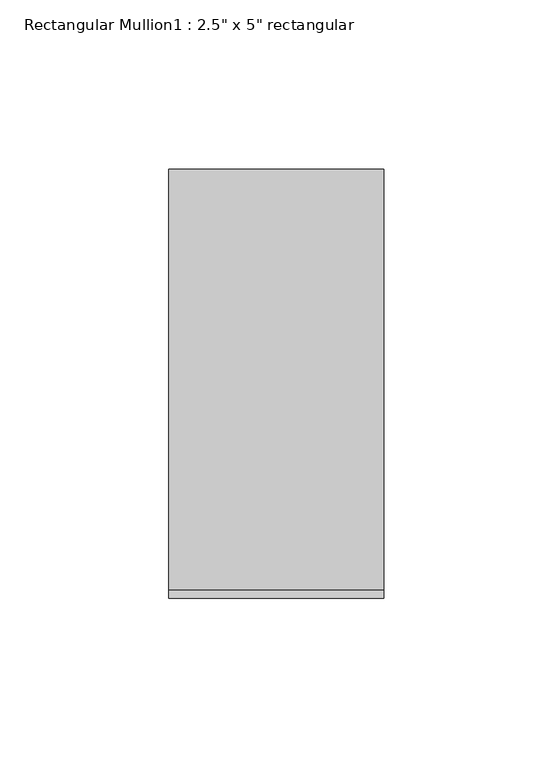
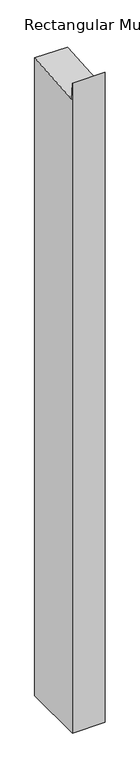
"""IFC4 building model written with IfcOpenShell, lengths in millimetres: member geometry."""

from ifc_helpers import new_model, si_unit, frame, origin, place, context, project, spatial, polyline, outline, extrude, source, transform, mapped, element, save


def member_0388ecb7(model_context):
    return source(origin(), model_context, "Body", "SweptSolid", [
        extrude(outline(polyline([(-63.5, 29.4551734), (-61.0425175, -4.5008422), (63.5, 4.512614), (63.5, -1302.7683735), (-63.5, -1302.7683735), (-63.5, 29.4551734)])), frame((-63.5, 0.0, 0.0), z_axis=(1.0, 0.0, 0.0), x_axis=(0.0, 1.0, 0.0)), (0.0, 0.0, 1.0), 63.5),
    ])


if __name__ == "__main__":
    model = new_model("IFC4")
    model_context = context("Model", 3, world=origin())
    ifc_project = project(units=[si_unit("LENGTHUNIT", "METRE", prefix="MILLI")], contexts=[model_context])
    site = spatial("IfcSite", under=ifc_project)
    building = spatial("IfcBuilding", under=site)
    placement = place(None, origin())
    member_shape = member_0388ecb7(model_context)
    element("IfcMember", 1, ObjectType="Rectangular Mullion1 : 2.5\" x 5\" rectangular", at=placement, inside=building, context=model_context, shape_type="MappedRepresentation", body=[
        mapped(member_shape, transform((0.0, 0.0, 0.0), x_axis=(1.0, 0.0, 0.0), y_axis=(0.0, 1.0, 0.0), z_axis=(0.0, 0.0, 1.0))),
    ])
    save(model, "model.ifc")
